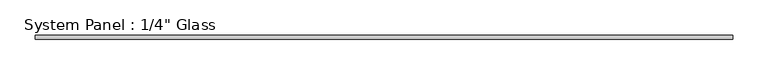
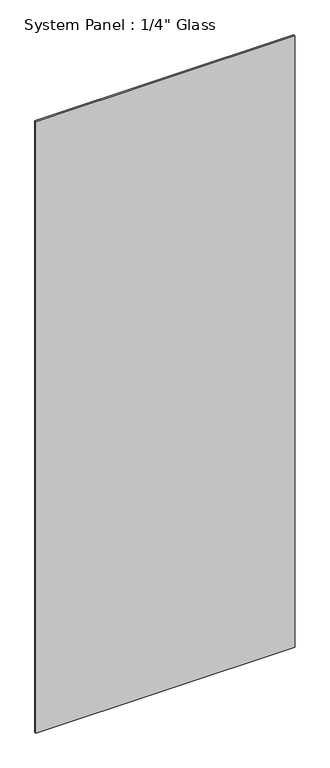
"""IFC4 building model written with IfcOpenShell, lengths in millimetres: plate geometry."""

from ifc_helpers import new_model, si_unit, origin, origin_with_axes, place, context, project, spatial, polyline, outline, extrude, source, transform, mapped, element, save


def plate_43a54168(model_context):
    return source(origin(), model_context, "Body", "SweptSolid", [
        extrude(outline(polyline([(498.475, -3.175), (-498.475, -3.175), (-498.475, 3.175), (498.475, 3.175), (498.475, -3.175)])), origin_with_axes(), (0.0, 0.0, 1.0), 2489.2),
    ])


if __name__ == "__main__":
    model = new_model("IFC4")
    model_context = context("Model", 3, world=origin())
    ifc_project = project(units=[si_unit("LENGTHUNIT", "METRE", prefix="MILLI")], contexts=[model_context])
    site = spatial("IfcSite", under=ifc_project)
    building = spatial("IfcBuilding", under=site)
    placement = place(None, origin())
    plate_shape = plate_43a54168(model_context)
    element("IfcPlate", 1, ObjectType="System Panel : 1/4\" Glass", at=placement, inside=building, context=model_context, shape_type="MappedRepresentation", body=[
        mapped(plate_shape, transform((0.0, 0.0, 0.0), x_axis=(1.0, 0.0, 0.0), y_axis=(0.0, 1.0, 0.0), z_axis=(0.0, 0.0, 1.0))),
    ])
    save(model, "model.ifc")
